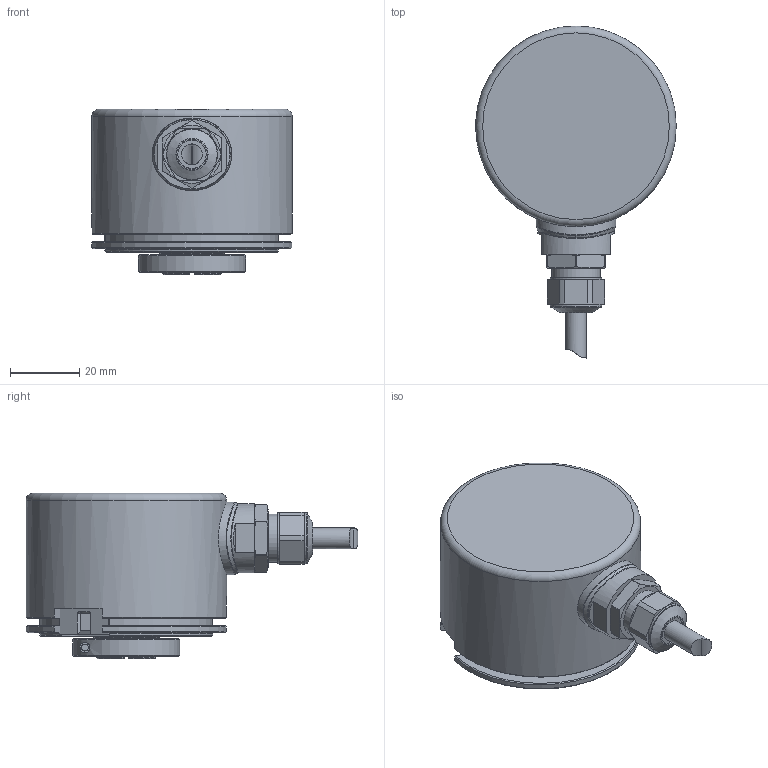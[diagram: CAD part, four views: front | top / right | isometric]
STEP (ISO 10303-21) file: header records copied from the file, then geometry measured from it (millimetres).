
FILE_DESCRIPTION(/* description */ ('Unknown'),/* implementation_level */ '2;1');
FILE_NAME(/* name */ 'EAM580R-BNF.7LC8.xxxxx.A',/* time_stamp */ '2022-07-04T14:35:09+02:00',/* author */ ('Unknown'),/* organization */ ('Baumer'),/* preprocessor_version */ 'ST-DEVELOPER v16.7',/* originating_system */ 'Solid Edge',/* authorisation */ 'Unknown');
FILE_SCHEMA (('AUTOMOTIVE_DESIGN {1 0 10303 214 3 1 1}'));
Length unit declared in the file: millimetre
Products named in the file (1): EAM580R-BNF.7LC8.xxxxx.A
Bounding box: 58 x 96 x 47.8 mm (x, y, z)
Volume: 113416.3 mm3; surface area: 19591.1 mm2
Topology: 1 solids, 1 shells, 200 faces, 510 edges, 334 vertices
Faces by surface type: plane 104, cylinder 57, cone 25, bspline 8, torus 6
Full cylindrical faces by diameter (mm): 2.013 x1, 2.5 x1, 2.6 x1, 3.242 x4, 4.5 x1, 6 x1, 8.2 x1, 14 x1, 14.8 x2, 15 x1, 15.2 x1, 19 x1, 24 x1, 26 x1, 26.05 x1, 27 x1, 58 x1
Entity records: 7641 total; most frequent: CARTESIAN_POINT 1633, DIRECTION 936, ORIENTED_EDGE 910, EDGE_CURVE 455, AXIS2_PLACEMENT_3D 355, VERTEX_POINT 316, EDGE_LOOP 263, FACE_BOUND 263
